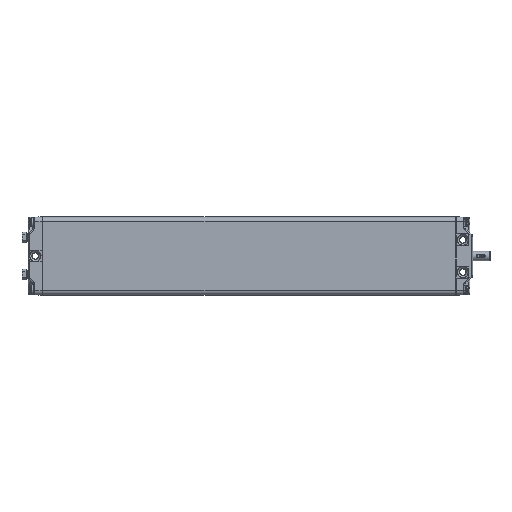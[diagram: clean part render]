
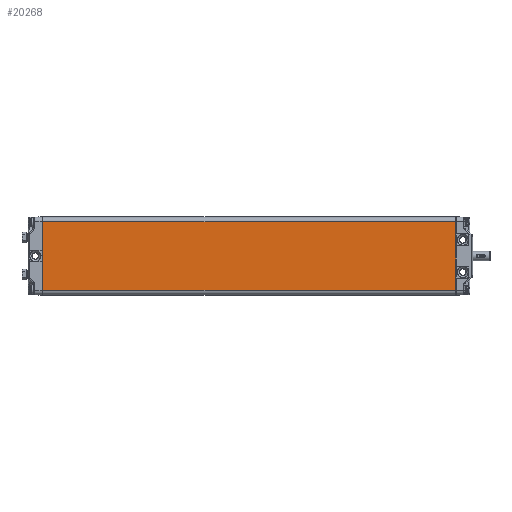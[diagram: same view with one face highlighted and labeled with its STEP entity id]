
A CAD part, top view. The second image highlights one B-rep face of the part: STEP entity #20268.
In plain terms, the highlighted planar face has unit normal (0, 0, 1).
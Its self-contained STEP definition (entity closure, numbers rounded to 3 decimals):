
#2488=LINE('',#48859,#3323);
#2489=LINE('',#48862,#3324);
#2490=LINE('',#48864,#3325);
#2491=LINE('',#48866,#3326);
#3323=VECTOR('',#25598,1000.);
#3324=VECTOR('',#25599,1000.);
#3325=VECTOR('',#25600,1000.);
#3326=VECTOR('',#25601,1000.);
#7464=ORIENTED_EDGE('',*,*,#11484,.T.);
#7465=ORIENTED_EDGE('',*,*,#11485,.T.);
#7466=ORIENTED_EDGE('',*,*,#11486,.T.);
#7467=ORIENTED_EDGE('',*,*,#11487,.T.);
#11484=EDGE_CURVE('',#13686,#13687,#2488,.T.);
#11485=EDGE_CURVE('',#13687,#13688,#2489,.F.);
#11486=EDGE_CURVE('',#13688,#13689,#2490,.F.);
#11487=EDGE_CURVE('',#13689,#13686,#2491,.T.);
#13686=VERTEX_POINT('',#48860);
#13687=VERTEX_POINT('',#48861);
#13688=VERTEX_POINT('',#48863);
#13689=VERTEX_POINT('',#48865);
#16058=EDGE_LOOP('',(#7464,#7465,#7466,#7467));
#17517=FACE_BOUND('',#16058,.T.);
#18320=PLANE('',#21961);
#20268=ADVANCED_FACE('',(#17517),#18320,.T.);
#21961=AXIS2_PLACEMENT_3D('',#48858,#25596,#25597);
#25596=DIRECTION('',(0.,0.,1.));
#25597=DIRECTION('',(1.,0.,0.));
#25598=DIRECTION('',(0.,-1.,0.));
#25599=DIRECTION('',(-1.,0.,0.));
#25600=DIRECTION('',(0.,-1.,0.));
#25601=DIRECTION('',(-1.,0.,0.));
#48858=CARTESIAN_POINT('',(42.5,450.5,17.5));
#48859=CARTESIAN_POINT('',(-37.5,450.5,17.5));
#48860=CARTESIAN_POINT('',(-37.5,450.,17.5));
#48861=CARTESIAN_POINT('',(-37.5,0.5,17.5));
#48862=CARTESIAN_POINT('',(37.5,0.5,17.5));
#48863=CARTESIAN_POINT('',(37.5,0.5,17.5));
#48864=CARTESIAN_POINT('',(37.5,450.5,17.5));
#48865=CARTESIAN_POINT('',(37.5,450.,17.5));
#48866=CARTESIAN_POINT('',(42.5,450.,17.5));
